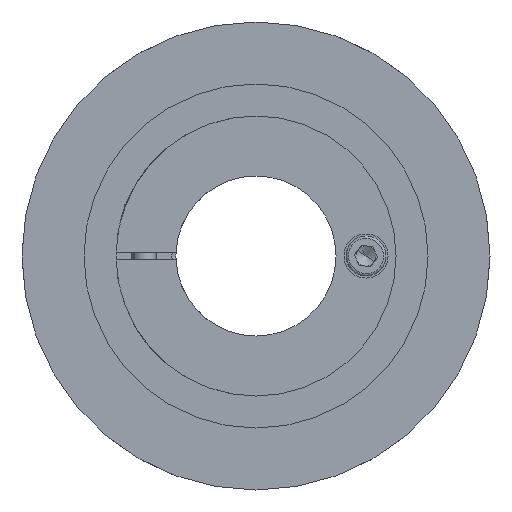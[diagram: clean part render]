
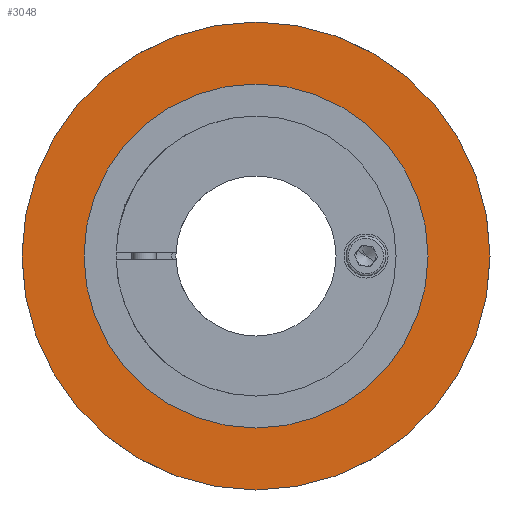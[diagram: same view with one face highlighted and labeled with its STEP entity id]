
A CAD part, left-side view. The second image highlights one B-rep face of the part: STEP entity #3048.
In plain terms, the highlighted planar face has unit normal (-1, 0, 0).
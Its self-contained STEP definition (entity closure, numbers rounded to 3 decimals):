
#49 = FACE_OUTER_BOUND ( 'NONE', #5425, .T. ) ;
#386 = CIRCLE ( 'NONE', #4046, 58.5 ) ;
#592 = CIRCLE ( 'NONE', #1379, 43. ) ;
#787 = ORIENTED_EDGE ( 'NONE', *, *, #1119, .T. ) ;
#893 = CARTESIAN_POINT ( 'NONE',  ( 0., 0., 0. ) ) ;
#896 = VERTEX_POINT ( 'NONE', #3340 ) ;
#976 = ORIENTED_EDGE ( 'NONE', *, *, #4827, .T. ) ;
#1119 = EDGE_CURVE ( 'NONE', #896, #1897, #386, .T. ) ;
#1191 = CARTESIAN_POINT ( 'NONE',  ( 0., 0., 43. ) ) ;
#1379 = AXIS2_PLACEMENT_3D ( 'NONE', #5212, #3437, #5242 ) ;
#1439 = DIRECTION ( 'NONE',  ( 0., 0., 1. ) ) ;
#1513 = EDGE_CURVE ( 'NONE', #5027, #3878, #5804, .T. ) ;
#1636 = DIRECTION ( 'NONE',  ( 1., 0., 0. ) ) ;
#1648 = DIRECTION ( 'NONE',  ( -1., 0., 0. ) ) ;
#1897 = VERTEX_POINT ( 'NONE', #2792 ) ;
#1922 = PLANE ( 'NONE',  #3339 ) ;
#2002 = CARTESIAN_POINT ( 'NONE',  ( 0., 0., 0. ) ) ;
#2061 = CIRCLE ( 'NONE', #2273, 58.5 ) ;
#2273 = AXIS2_PLACEMENT_3D ( 'NONE', #5406, #1648, #3424 ) ;
#2778 = DIRECTION ( 'NONE',  ( -1., 0., 0. ) ) ;
#2781 = EDGE_LOOP ( 'NONE', ( #4935, #4270 ) ) ;
#2792 = CARTESIAN_POINT ( 'NONE',  ( 0., 0., 58.5 ) ) ;
#2848 = CARTESIAN_POINT ( 'NONE',  ( 0., 0., -43. ) ) ;
#3048 = ADVANCED_FACE ( 'NONE', ( #4274, #49 ), #1922, .F. ) ;
#3339 = AXIS2_PLACEMENT_3D ( 'NONE', #4467, #1636, #4844 ) ;
#3340 = CARTESIAN_POINT ( 'NONE',  ( 0., 0., -58.5 ) ) ;
#3424 = DIRECTION ( 'NONE',  ( 0., 0., 1. ) ) ;
#3437 = DIRECTION ( 'NONE',  ( -1., 0., 0. ) ) ;
#3878 = VERTEX_POINT ( 'NONE', #2848 ) ;
#4046 = AXIS2_PLACEMENT_3D ( 'NONE', #2002, #5780, #1439 ) ;
#4270 = ORIENTED_EDGE ( 'NONE', *, *, #5755, .F. ) ;
#4274 = FACE_BOUND ( 'NONE', #2781, .T. ) ;
#4467 = CARTESIAN_POINT ( 'NONE',  ( 0., -59.202, 59.202 ) ) ;
#4670 = DIRECTION ( 'NONE',  ( 0., 0., 1. ) ) ;
#4827 = EDGE_CURVE ( 'NONE', #1897, #896, #2061, .T. ) ;
#4844 = DIRECTION ( 'NONE',  ( 0., 0., -1. ) ) ;
#4935 = ORIENTED_EDGE ( 'NONE', *, *, #1513, .F. ) ;
#5027 = VERTEX_POINT ( 'NONE', #1191 ) ;
#5212 = CARTESIAN_POINT ( 'NONE',  ( 0., 0., 0. ) ) ;
#5242 = DIRECTION ( 'NONE',  ( 0., 0., 1. ) ) ;
#5406 = CARTESIAN_POINT ( 'NONE',  ( 0., 0., 0. ) ) ;
#5425 = EDGE_LOOP ( 'NONE', ( #976, #787 ) ) ;
#5755 = EDGE_CURVE ( 'NONE', #3878, #5027, #592, .T. ) ;
#5780 = DIRECTION ( 'NONE',  ( -1., 0., 0. ) ) ;
#5804 = CIRCLE ( 'NONE', #6021, 43. ) ;
#6021 = AXIS2_PLACEMENT_3D ( 'NONE', #893, #2778, #4670 ) ;
